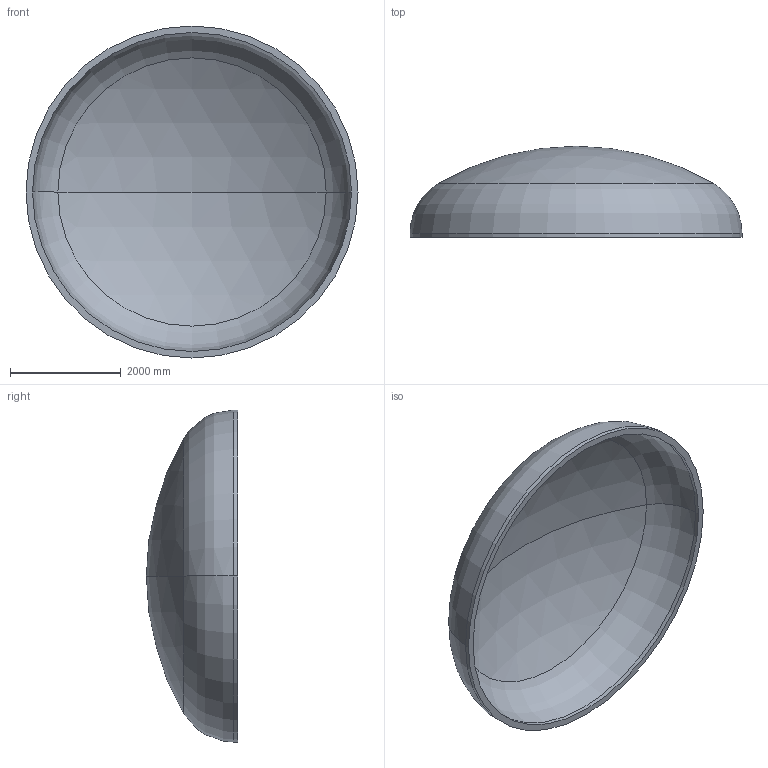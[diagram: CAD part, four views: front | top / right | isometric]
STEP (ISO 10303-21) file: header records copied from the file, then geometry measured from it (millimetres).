
FILE_DESCRIPTION (( 'STEP AP203' ), '1' );
FILE_NAME ('DIN 28013 Korbbogenform_-_Boden DIN 28013 - 6000 x 75 - I - s=118.step', '2016-07-04T10:39:23', ( '' ), ( '' ), 'SwSTEP 2.0', 'SolidWorks 2013', '' );
FILE_SCHEMA (( 'CONFIG_CONTROL_DESIGN' ));
Length unit declared in the file: millimetre
Products named in the file (1): DIN 28013 Korbbogenform_-_Boden DIN 28013 - 6000 x 75 - I - s=118
Bounding box: 6000 x 1648.49 x 6000 mm (x, y, z)
Volume: 4667200603.9 mm3; surface area: 81314732.1 mm2
Topology: 1 solids, 1 shells, 13 faces, 24 edges, 14 vertices
Faces by surface type: torus 4, cylinder 4, sphere 4, plane 1
Entity records: 407 total; most frequent: DIRECTION 72, CARTESIAN_POINT 52, ORIENTED_EDGE 48, AXIS2_PLACEMENT_3D 34, EDGE_CURVE 24, CIRCLE 20, VERTEX_POINT 14, EDGE_LOOP 14
